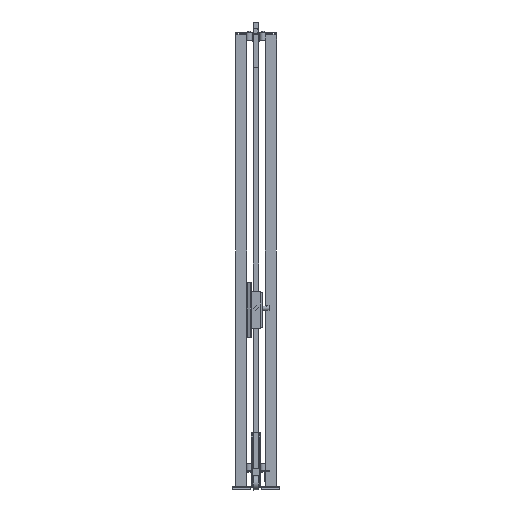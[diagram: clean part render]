
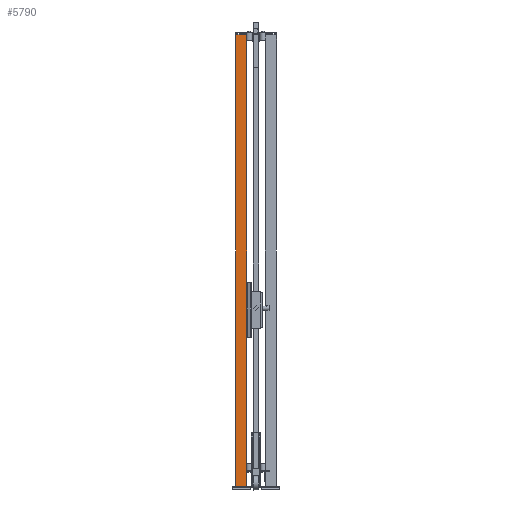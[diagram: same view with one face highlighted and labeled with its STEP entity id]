
A CAD part, left-side view. The second image highlights one B-rep face of the part: STEP entity #5790.
In plain terms, the highlighted planar face has unit normal (-1, 0, 0) as drawn and (0, 1, 0) by its records, which use the part's own axes.
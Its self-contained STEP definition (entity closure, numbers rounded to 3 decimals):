
#542=FACE_OUTER_BOUND('',#1008,.T.);
#1008=EDGE_LOOP('',(#3486,#3487,#3488,#3489));
#1522=VERTEX_POINT('',#12528);
#1523=VERTEX_POINT('',#12530);
#1525=VERTEX_POINT('',#12536);
#1528=VERTEX_POINT('',#12541);
#2280=EDGE_CURVE('',#1522,#1523,#6876,.T.);
#2286=EDGE_CURVE('',#1528,#1525,#6882,.T.);
#2289=EDGE_CURVE('',#1523,#1528,#6885,.T.);
#2290=EDGE_CURVE('',#1522,#1525,#6886,.T.);
#3486=ORIENTED_EDGE('',*,*,#2290,.T.);
#3487=ORIENTED_EDGE('',*,*,#2286,.F.);
#3488=ORIENTED_EDGE('',*,*,#2289,.F.);
#3489=ORIENTED_EDGE('',*,*,#2280,.F.);
#5402=PLANE('',#8808);
#5790=ADVANCED_FACE('',(#542),#5402,.F.);
#6876=LINE('',#12531,#7928);
#6882=LINE('',#12543,#7934);
#6885=LINE('',#12548,#7937);
#6886=LINE('',#12550,#7938);
#7928=VECTOR('',#9803,1.);
#7934=VECTOR('',#9811,1.);
#7937=VECTOR('',#9818,1.);
#7938=VECTOR('',#9821,1.);
#8808=AXIS2_PLACEMENT_3D('',#12549,#9819,#9820);
#9803=DIRECTION('',(-1.,0.,0.));
#9811=DIRECTION('',(1.,0.,0.));
#9818=DIRECTION('',(0.,0.,-1.));
#9819=DIRECTION('center_axis',(0.,-1.,0.));
#9820=DIRECTION('ref_axis',(0.,0.,-1.));
#9821=DIRECTION('',(0.,0.,-1.));
#12528=CARTESIAN_POINT('',(30.,30.,2520.));
#12530=CARTESIAN_POINT('',(-30.,30.,2520.));
#12531=CARTESIAN_POINT('',(0.,30.,2520.));
#12536=CARTESIAN_POINT('',(30.,30.,20.));
#12541=CARTESIAN_POINT('',(-30.,30.,20.));
#12543=CARTESIAN_POINT('',(0.,30.,20.));
#12548=CARTESIAN_POINT('',(-30.,30.,1270.));
#12549=CARTESIAN_POINT('Origin',(0.,30.,
1270.));
#12550=CARTESIAN_POINT('',(30.,30.,1270.));
